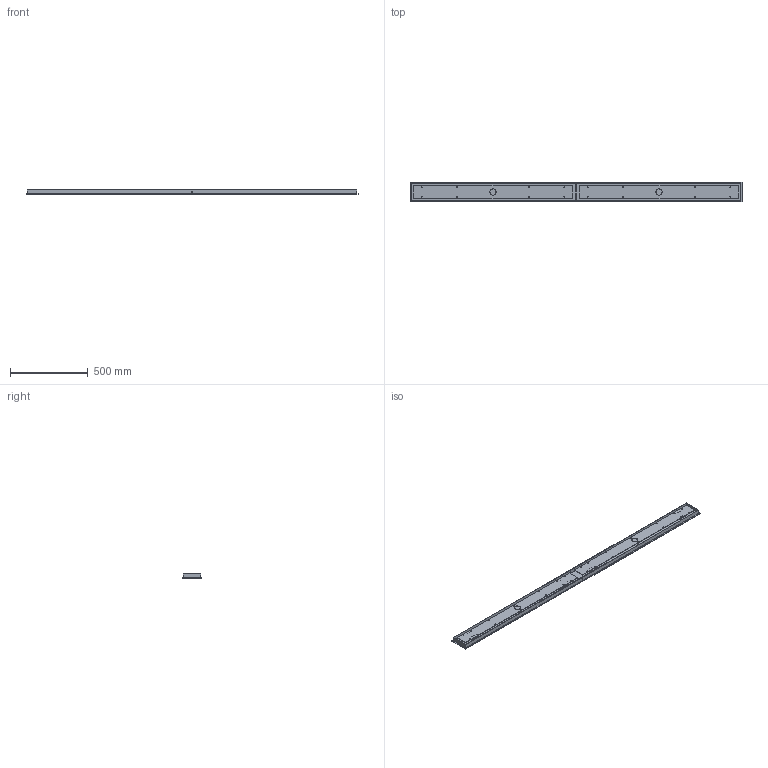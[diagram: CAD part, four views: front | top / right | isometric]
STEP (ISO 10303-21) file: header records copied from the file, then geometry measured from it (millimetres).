
FILE_DESCRIPTION(/* description */ (''),/* implementation_level */ '2;1');
FILE_NAME(/* name */ 'SkLO_Linear_Canopy_7''_MCL07_3D',/* time_stamp */ '2024-10-18T17:25:34+02:00',/* author */ (''),/* organization */ (''),/* preprocessor_version */ 'ST-DEVELOPER v16.5',/* originating_system */ 'Rhino 7.34',/* authorisation */ '');
FILE_SCHEMA (('CONFIG_CONTROL_DESIGN'));
Length unit declared in the file: millimetre
Products named in the file (1): Document
Bounding box: 2140 x 127 x 28.3 mm (x, y, z)
Volume: 1635037.5 mm3; surface area: 1133252.4 mm2
Topology: 4 solids, 16 shells, 336 faces, 854 edges, 556 vertices
Faces by surface type: cylinder 134, plane 126, bspline 76
Full cylindrical faces by diameter (mm): 3 x32, 5.249 x12, 6 x24, 6.2 x28, 10 x12, 40 x2
Entity records: 15277 total; most frequent: CARTESIAN_POINT 9820, ORIENTED_EDGE 1616, EDGE_CURVE 814, VERTEX_POINT 524, EDGE_LOOP 454, B_SPLINE_CURVE_WITH_KNOTS 346, ADVANCED_FACE 336, FACE_OUTER_BOUND 336
